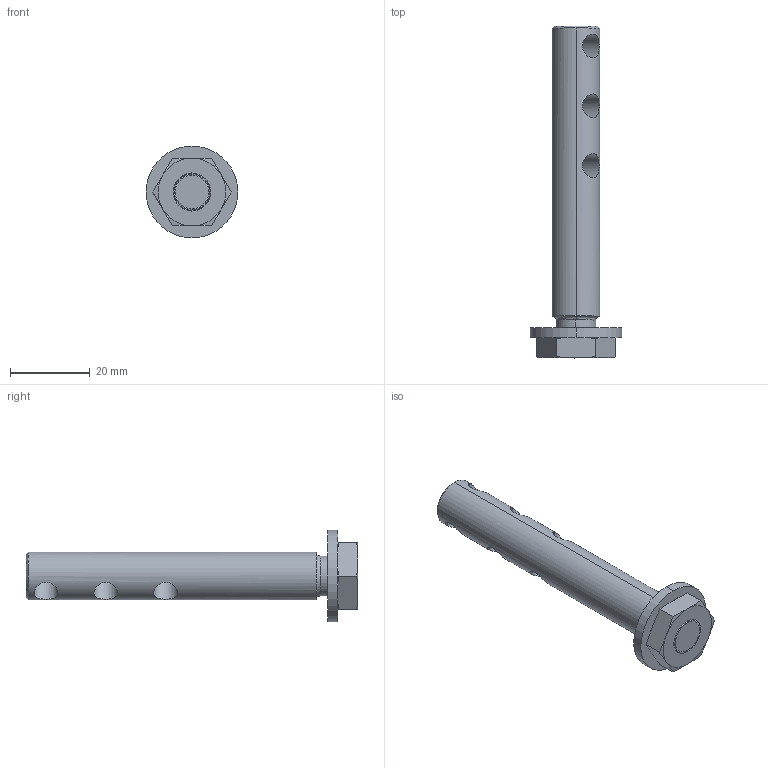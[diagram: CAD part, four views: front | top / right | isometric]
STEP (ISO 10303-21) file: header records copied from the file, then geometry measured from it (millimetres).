
FILE_DESCRIPTION(('CATIA V5 STEP Exchange'),'2;1');
FILE_NAME('\\192.168.2.253\vorns\技术部\03-技术资料\03-产品数模\02、抓具\STP\EGT203.stp','2017-10-18T02:10:55+00:00',('none'),('none'),'CATIA Version 5 Release 21 GA (IN-10)','CATIA V5 STEP AP203','none');
FILE_SCHEMA(('CONFIG_CONTROL_DESIGN'));
Length unit declared in the file: millimetre
Products named in the file (1): EGT_203
Bounding box: 23 x 83.1 x 23 mm (x, y, z)
Volume: 9835.7 mm3; surface area: 5445.2 mm2
Topology: 3 solids, 3 shells, 48 faces, 116 edges, 74 vertices
Faces by surface type: cone 16, cylinder 16, plane 12, bspline 4
Entity records: 1903 total; most frequent: CARTESIAN_POINT 872, ORIENTED_EDGE 232, DIRECTION 136, EDGE_CURVE 116, VERTEX_POINT 74, AXIS2_PLACEMENT_3D 67, EDGE_LOOP 58, B_SPLINE_CURVE_WITH_KNOTS 52
